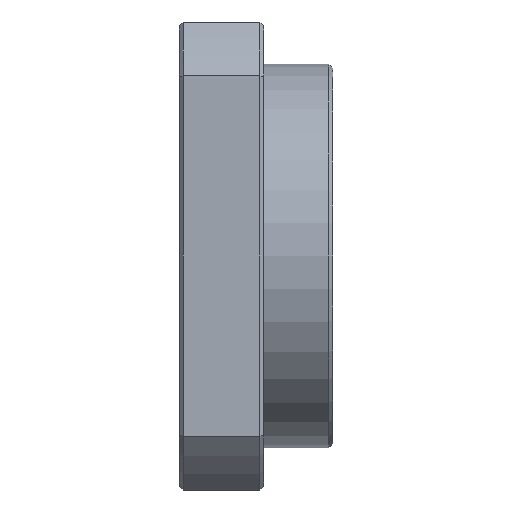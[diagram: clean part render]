
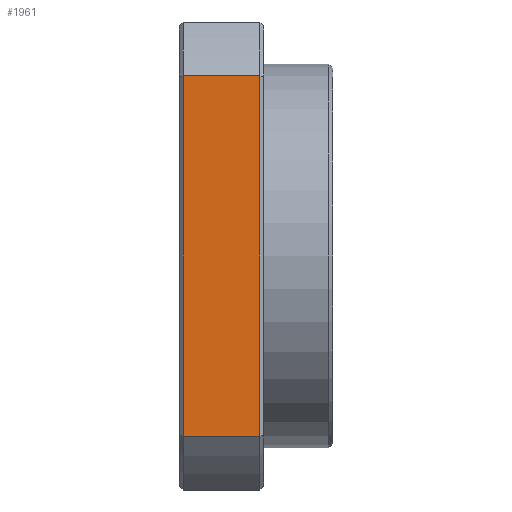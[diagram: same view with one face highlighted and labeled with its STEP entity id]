
A CAD part, front view. The second image highlights one B-rep face of the part: STEP entity #1961.
In plain terms, the highlighted planar face has unit normal (0, -1, 0).
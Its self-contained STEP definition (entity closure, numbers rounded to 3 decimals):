
#12 = FACE_OUTER_BOUND ( 'NONE', #3150, .T. ) ;
#57 = ORIENTED_EDGE ( 'NONE', *, *, #2065, .T. ) ;
#59 = VERTEX_POINT ( 'NONE', #3142 ) ;
#170 = VECTOR ( 'NONE', #2051, 1000. ) ;
#281 = DIRECTION ( 'NONE',  ( 0., 0., 1. ) ) ;
#305 = CARTESIAN_POINT ( 'NONE',  ( 10.5, -30.5, 23.495 ) ) ;
#388 = LINE ( 'NONE', #2729, #3295 ) ;
#466 = AXIS2_PLACEMENT_3D ( 'NONE', #2924, #2893, #2885 ) ;
#494 = EDGE_CURVE ( 'NONE', #1993, #1129, #1680, .T. ) ;
#625 = CARTESIAN_POINT ( 'NONE',  ( 0.5, -30.5, 23.495 ) ) ;
#832 = ORIENTED_EDGE ( 'NONE', *, *, #2767, .T. ) ;
#1129 = VERTEX_POINT ( 'NONE', #625 ) ;
#1257 = DIRECTION ( 'NONE',  ( 1., 0., 0. ) ) ;
#1269 = CARTESIAN_POINT ( 'NONE',  ( -81.647, -30.5, -23.495 ) ) ;
#1577 = VECTOR ( 'NONE', #1257, 1000. ) ;
#1680 = LINE ( 'NONE', #2533, #170 ) ;
#1911 = VERTEX_POINT ( 'NONE', #3166 ) ;
#1961 = ADVANCED_FACE ( 'NONE', ( #12 ), #2899, .T. ) ;
#1993 = VERTEX_POINT ( 'NONE', #2857 ) ;
#2051 = DIRECTION ( 'NONE',  ( -1., 0., 0. ) ) ;
#2065 = EDGE_CURVE ( 'NONE', #1129, #1911, #388, .T. ) ;
#2067 = VECTOR ( 'NONE', #281, 1000. ) ;
#2432 = ORIENTED_EDGE ( 'NONE', *, *, #3232, .T. ) ;
#2533 = CARTESIAN_POINT ( 'NONE',  ( -81.647, -30.5, 23.495 ) ) ;
#2727 = DIRECTION ( 'NONE',  ( 0., 0., -1. ) ) ;
#2729 = CARTESIAN_POINT ( 'NONE',  ( 0.5, -30.5, -23.495 ) ) ;
#2767 = EDGE_CURVE ( 'NONE', #1911, #59, #3543, .T. ) ;
#2786 = LINE ( 'NONE', #305, #2067 ) ;
#2857 = CARTESIAN_POINT ( 'NONE',  ( 10.5, -30.5, 23.495 ) ) ;
#2885 = DIRECTION ( 'NONE',  ( 0., 0., -1. ) ) ;
#2893 = DIRECTION ( 'NONE',  ( 0., -1., 0. ) ) ;
#2899 = PLANE ( 'NONE',  #466 ) ;
#2924 = CARTESIAN_POINT ( 'NONE',  ( 50., -30.5, -30.5 ) ) ;
#3053 = ORIENTED_EDGE ( 'NONE', *, *, #494, .T. ) ;
#3142 = CARTESIAN_POINT ( 'NONE',  ( 10.5, -30.5, -23.495 ) ) ;
#3150 = EDGE_LOOP ( 'NONE', ( #3053, #57, #832, #2432 ) ) ;
#3166 = CARTESIAN_POINT ( 'NONE',  ( 0.5, -30.5, -23.495 ) ) ;
#3232 = EDGE_CURVE ( 'NONE', #59, #1993, #2786, .T. ) ;
#3295 = VECTOR ( 'NONE', #2727, 1000. ) ;
#3543 = LINE ( 'NONE', #1269, #1577 ) ;
